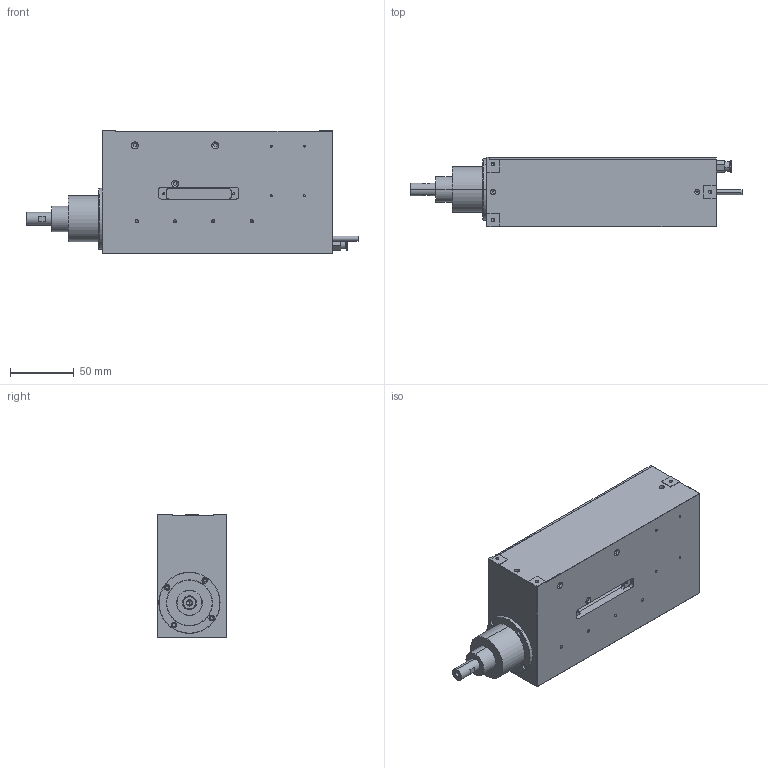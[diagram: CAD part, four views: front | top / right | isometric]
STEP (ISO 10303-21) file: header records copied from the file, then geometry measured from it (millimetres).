
FILE_DESCRIPTION (( 'STEP AP203' ), '1' );
FILE_NAME ('LAR51-058-31-6FVS.STEP', '2017-08-29T23:39:15', ( '' ), ( '' ), 'SwSTEP 2.0', 'SolidWorks 2016', '' );
FILE_SCHEMA (( 'CONFIG_CONTROL_DESIGN' ));
Length unit declared in the file: millimetre
Products named in the file (7): FILL; 11593-01_5; LAR51-058-31-6FVS; 21559-LAR; LAR51-NOSE; 16556-01_B; 23587-01_B
Assembly tree (6 placements, depth 2):
  LAR51-058-31-6FVS
    11593-01_5
    FILL
    LAR51-NOSE
    16556-01_B
    21559-LAR
    23587-01_B
Bounding box: 260 x 54 x 96 mm (x, y, z)
Volume: 288237.7 mm3; surface area: 140821.7 mm2
Topology: 6 solids, 7 shells, 548 faces, 1371 edges, 834 vertices
Faces by surface type: cylinder 235, plane 156, cone 147, torus 4, sphere 4, bspline 2
Entity records: 17161 total; most frequent: DIRECTION 3010, CARTESIAN_POINT 2979, ORIENTED_EDGE 2654, EDGE_CURVE 1327, AXIS2_PLACEMENT_3D 1145, VERTEX_POINT 834, VECTOR 720, LINE 720
